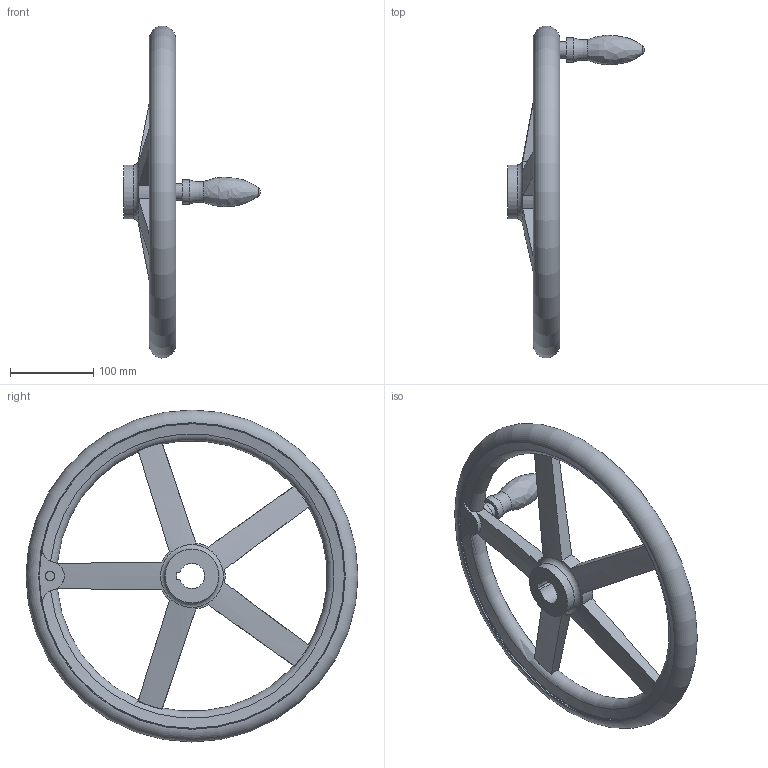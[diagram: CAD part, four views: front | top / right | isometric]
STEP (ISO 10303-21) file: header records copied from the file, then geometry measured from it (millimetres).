
FILE_DESCRIPTION( ( 'STEP AP203' ), '1' );
FILE_NAME( 'C:/Temp/Ganter_Step_05_03_2020/data/1_3/din_950/din_950_k/din_950_k_d/Handwheel DIN 950-AL-400-K30-D.stp', '2020-03-05T10:31:04', ( 'License CC BY-ND 4.0' ), ( 'CADENAS' ), ' ', 'PARTsolutions', ' ' );
FILE_SCHEMA( ( 'CONFIG_CONTROL_DESIGN' ) );
Length unit declared in the file: millimetre
Products named in the file (1): _Handwheel DIN 950-AL-400-K30-D
Bounding box: 165 x 399.9 x 399.9 mm (x, y, z)
Volume: 1437786.3 mm3; surface area: 210713.9 mm2
Topology: 1 solids, 1 shells, 66 faces, 191 edges, 123 vertices
Faces by surface type: cylinder 20, torus 19, plane 19, cone 6, bspline 1, sphere 1
Full cylindrical faces by diameter (mm): 20 x1, 29 x1, 65 x2, 368 x2
Entity records: 2650 total; most frequent: CARTESIAN_POINT 1041, ORIENTED_EDGE 330, DIRECTION 296, EDGE_CURVE 165, AXIS2_PLACEMENT_3D 133, VERTEX_POINT 119, EDGE_LOOP 94, FACE_OUTER_BOUND 81
